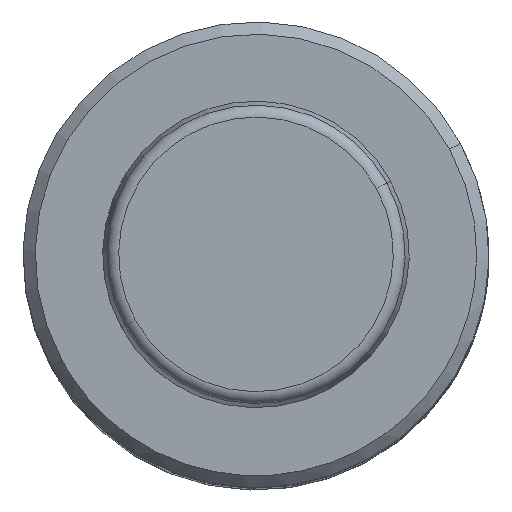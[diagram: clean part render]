
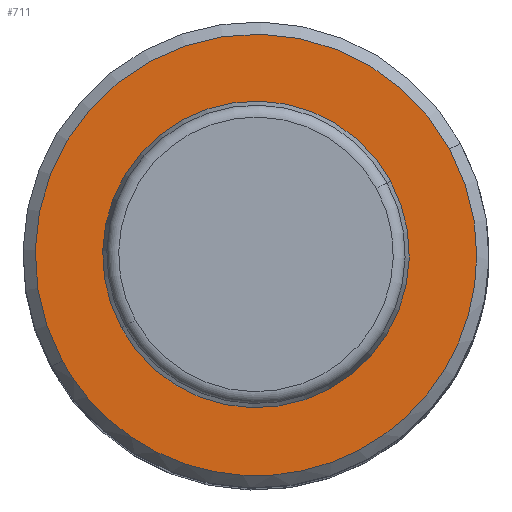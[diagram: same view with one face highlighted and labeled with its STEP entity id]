
A CAD part, top view. The second image highlights one B-rep face of the part: STEP entity #711.
In plain terms, the highlighted planar face has unit normal (0, 0, 1).
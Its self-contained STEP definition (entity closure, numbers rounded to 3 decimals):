
#641=CARTESIAN_POINT('Axis2P3D Location',(0.,0.,79.)) ;
#645=CARTESIAN_POINT('Vertex',(15.796,8.63,79.)) ;
#647=CARTESIAN_POINT('Vertex',(-15.796,-8.63,79.)) ;
#676=CARTESIAN_POINT('Axis2P3D Location',(18.,0.,79.)) ;
#682=CARTESIAN_POINT('Control Point',(15.796,8.63,79.)) ;
#683=CARTESIAN_POINT('Control Point',(16.594,7.17,79.)) ;
#684=CARTESIAN_POINT('Control Point',(17.222,5.619,79.)) ;
#685=CARTESIAN_POINT('Control Point',(17.668,4.002,79.)) ;
#686=CARTESIAN_POINT('Control Point',(18.179,0.693,79.)) ;
#687=CARTESIAN_POINT('Control Point',(17.922,-2.644,79.)) ;
#688=CARTESIAN_POINT('Control Point',(17.6,-4.291,79.)) ;
#689=CARTESIAN_POINT('Control Point',(16.583,-7.48,79.)) ;
#690=CARTESIAN_POINT('Control Point',(14.865,-10.354,79.)) ;
#691=CARTESIAN_POINT('Control Point',(13.844,-11.685,79.)) ;
#692=CARTESIAN_POINT('Control Point',(11.512,-14.086,79.)) ;
#693=CARTESIAN_POINT('Control Point',(8.694,-15.893,79.)) ;
#694=CARTESIAN_POINT('Control Point',(7.186,-16.63,79.)) ;
#695=CARTESIAN_POINT('Control Point',(4.028,-17.74,79.)) ;
#696=CARTESIAN_POINT('Control Point',(0.7,-18.102,79.)) ;
#697=CARTESIAN_POINT('Control Point',(-0.978,-18.089,79.)) ;
#698=CARTESIAN_POINT('Control Point',(-4.3,-17.677,79.)) ;
#699=CARTESIAN_POINT('Control Point',(-7.44,-16.518,79.)) ;
#700=CARTESIAN_POINT('Control Point',(-8.936,-15.758,79.)) ;
#701=CARTESIAN_POINT('Control Point',(-11.45,-14.092,79.)) ;
#702=CARTESIAN_POINT('Control Point',(-13.561,-11.949,79.)) ;
#703=CARTESIAN_POINT('Control Point',(-14.41,-10.91,79.)) ;
#704=CARTESIAN_POINT('Control Point',(-15.157,-9.8,79.)) ;
#705=CARTESIAN_POINT('Control Point',(-15.796,-8.63,79.)) ;
#642=DIRECTION('Axis2P3D Direction',(0.,0.,-1.)) ;
#677=DIRECTION('Axis2P3D Direction',(0.,0.,1.)) ;
#678=DIRECTION('Axis2P3D XDirection',(1.,0.,0.)) ;
#643=AXIS2_PLACEMENT_3D('Circle Axis2P3D',#641,#642,$) ;
#679=AXIS2_PLACEMENT_3D('Plane Axis2P3D',#676,#677,#678) ;
#708=ORIENTED_EDGE('',*,*,#649,.T.) ;
#709=ORIENTED_EDGE('',*,*,#706,.T.) ;
#711=ADVANCED_FACE('',(#710),#680,.T.) ;
#681=B_SPLINE_CURVE_WITH_KNOTS('',5,(#682,#683,#684,#685,#686,#687,#688,#689,#690,#691,#692,#693,#694,#695,#696,#697,#698,#699,#700,#701,#702,#703,#704,#705),.UNSPECIFIED.,.F.,.U.,(6,3,3,3,3,3,3,6),(0.,11.757,23.515,35.272,47.03,58.787,70.545,79.971),.UNSPECIFIED.) ;
#644=CIRCLE('generated circle',#643,18.) ;
#649=EDGE_CURVE('',#646,#648,#644,.F.) ;
#706=EDGE_CURVE('',#648,#646,#681,.F.) ;
#707=EDGE_LOOP('',(#708,#709)) ;
#710=FACE_OUTER_BOUND('',#707,.T.) ;
#680=PLANE('Plane',#679) ;
#646=VERTEX_POINT('',#645) ;
#648=VERTEX_POINT('',#647) ;
